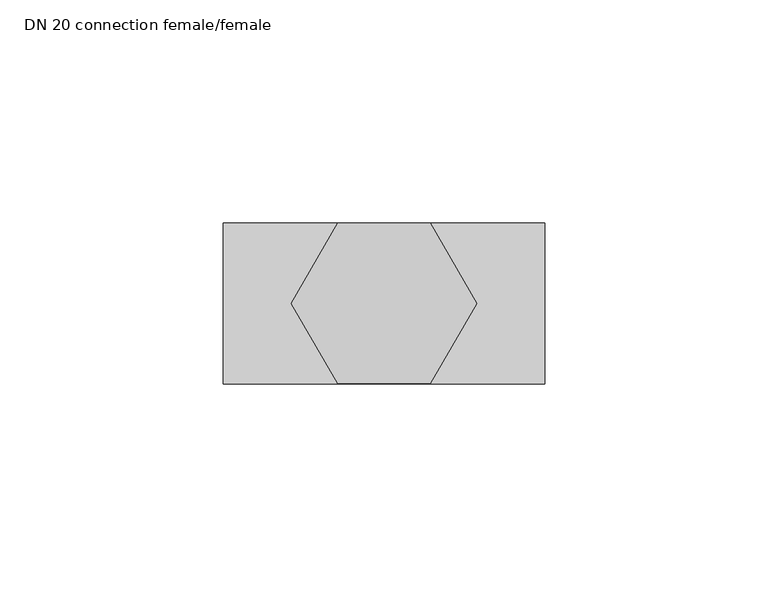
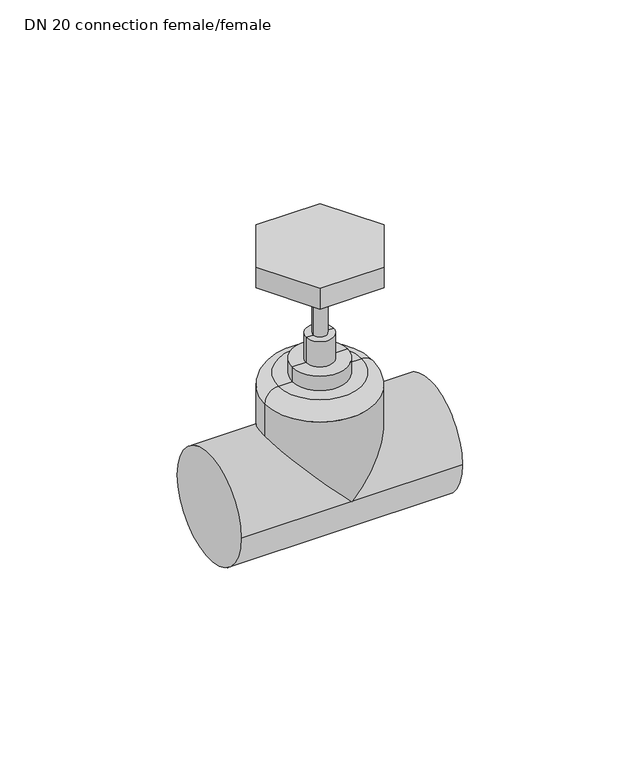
"""IFC4 building model written with IfcOpenShell, lengths in millimetres: valve geometry, PP-R_Valve : DN 20 connection female/female."""

from ifc_helpers import new_model, si_unit, point, frame, origin, place, context, project, spatial, polyline, circle_curve, ellipse_curve, trimmed, outline, extrude, source, transform, mapped, element, save
from ifc_brep_helpers import plane_surface, cylinder_surface, revolved_surface, advanced_brep


def dn_20_connection_female_female_d176d5bb(model_context):
    return source(origin(), model_context, "Body", "SolidModel", [
        extrude(outline(polyline([(70.3002724, 0.0), (59.9079676, -18.0), (39.1233579, -18.0), (28.7310531, 0.0), (39.1233579, 18.0), (59.9079676, 18.0), (70.3002724, 0.0)])), frame((0.0, 0.0, 69.8), z_axis=(0.0, 0.0, 1.0), x_axis=(1.0, 0.0, 0.0)), (0.0, 0.0, 1.0), 7.2),
        advanced_brep(
        [(49.5156627, 0.0, 69.8), (51.7656627, 0.0, 69.8), (47.2656627, 0.0, 69.8), (45.0156627, 0.0, 38.5), (54.0156627, 0.0, 38.5), (49.5156627, 0.0, 38.5), (45.0156627, 0.0, 47.125), (54.0156627, 0.0, 47.125), (47.2656627, 0.0, 47.125), (51.7656627, 0.0, 47.125)],
        [
            (0, 1),
            (1, 2, circle_curve(frame((49.5156627, 0.0, 69.8), z_axis=(0.0, 0.0, 1.0), x_axis=(1.0, 0.0, 0.0)), 2.25)),
            (2, 0),
            (2, 1, circle_curve(frame((49.5156627, 0.0, 69.8), z_axis=(0.0, 0.0, 1.0), x_axis=(1.0, 0.0, 0.0)), 2.25)),
            (3, 4, circle_curve(frame((49.5156627, 0.0, 38.5), z_axis=(0.0, 0.0, -1.0), x_axis=(1.0, 0.0, 0.0)), 4.5)),
            (4, 5),
            (5, 3),
            (4, 3, circle_curve(frame((49.5156627, 0.0, 38.5), z_axis=(0.0, 0.0, -1.0), x_axis=(1.0, 0.0, 0.0)), 4.5)),
            (6, 7, circle_curve(frame((49.5156627, 0.0, 47.125), z_axis=(0.0, 0.0, -1.0), x_axis=(1.0, 0.0, 0.0)), 4.5)),
            (7, 4),
            (3, 6),
            (7, 6, circle_curve(frame((49.5156627, 0.0, 47.125), z_axis=(0.0, 0.0, -1.0), x_axis=(1.0, 0.0, 0.0)), 4.5)),
            (8, 9, circle_curve(frame((49.5156627, 0.0, 47.125), z_axis=(0.0, 0.0, -1.0), x_axis=(1.0, 0.0, 0.0)), 2.25)),
            (9, 7),
            (6, 8),
            (9, 8, circle_curve(frame((49.5156627, 0.0, 47.125), z_axis=(0.0, 0.0, -1.0), x_axis=(1.0, 0.0, 0.0)), 2.25)),
            (1, 9),
            (8, 2),
        ],
        [
            plane_surface(frame((49.5156627, 0.0, 69.8), z_axis=(0.0, 0.0, 1.0), x_axis=(1.0, 0.0, 0.0))),
            plane_surface(frame((49.5156627, 0.0, 38.5), z_axis=(0.0, 0.0, -1.0), x_axis=(1.0, 0.0, 0.0))),
            cylinder_surface(frame((49.5156627, 0.0, 160.5), z_axis=(0.0, 0.0, 1.0), x_axis=(1.0, 0.0, 0.0)), 4.5),
            plane_surface(frame((49.5156627, 0.0, 47.125), z_axis=(0.0, 0.0, 1.0), x_axis=(1.0, 0.0, 0.0))),
            cylinder_surface(frame((49.5156627, 0.0, 160.5), z_axis=(0.0, 0.0, 1.0), x_axis=(1.0, 0.0, 0.0)), 2.25),
        ],
        [
            (0, [[1, 2, 3]]),
            (0, [[-3, 4, -1]]),
            (1, [[5, 6, 7]]),
            (1, [[8, -7, -6]]),
            (2, [[9, 10, -5, 11]]),
            (2, [[12, -11, -8, -10]]),
            (3, [[13, 14, -9, 15]]),
            (3, [[16, -15, -12, -14]]),
            (4, [[-2, 17, -13, 18]]),
            (4, [[-4, -18, -16, -17]]),
        ],
    ),
        advanced_brep(
        [(49.5156627, 0.0, 38.5), (58.5156627, 0.0, 38.5), (40.5156627, 0.0, 38.5), (36.0156627, 0.0, 33.5), (40.5156627, 0.0, 33.5), (58.5156627, 0.0, 33.5), (63.0156627, 0.0, 33.5), (67.5156627, 0.0, 29.0), (31.5156627, 0.0, 29.0), (67.5156627, 0.0, 18.0), (49.5156627, 18.0, 0.0), (31.5156627, 0.0, 18.0), (49.5156627, -18.0, 0.0), (85.5156627, -18.0, 0.0), (85.5156627, 18.0, 0.0), (13.5156627, -18.0, 0.0), (13.5156627, 18.0, 0.0)],
        [
            (0, 1),
            (1, 2, circle_curve(frame((49.5156627, 0.0, 38.5), z_axis=(0.0, 0.0, 1.0), x_axis=(1.0, 0.0, 0.0)), 9.0)),
            (2, 0),
            (2, 1, circle_curve(frame((49.5156627, 0.0, 38.5), z_axis=(0.0, 0.0, 1.0), x_axis=(1.0, 0.0, 0.0)), 9.0)),
            (3, 4),
            (4, 5, circle_curve(frame((49.5156627, 0.0, 33.5), z_axis=(0.0, 0.0, -1.0), x_axis=(1.0, 0.0, 0.0)), 9.0)),
            (5, 6),
            (6, 3, circle_curve(frame((49.5156627, 0.0, 33.5), z_axis=(0.0, 0.0, 1.0), x_axis=(1.0, 0.0, 0.0)), 13.5)),
            (3, 6, circle_curve(frame((49.5156627, 0.0, 33.5), z_axis=(0.0, 0.0, 1.0), x_axis=(1.0, 0.0, 0.0)), 13.5)),
            (5, 4, circle_curve(frame((49.5156627, 0.0, 33.5), z_axis=(0.0, 0.0, -1.0), x_axis=(1.0, 0.0, 0.0)), 9.0)),
            (6, 7, circle_curve(frame((63.0156627, 0.0, 29.0), z_axis=(0.0, 1.0, 0.0), x_axis=(1.0, 0.0, 0.0)), 4.5)),
            (7, 8, circle_curve(frame((49.5156627, 0.0, 29.0), z_axis=(0.0, 0.0, 1.0), x_axis=(1.0, 0.0, 0.0)), 18.0)),
            (8, 3, circle_curve(frame((36.0156627, 0.0, 29.0), z_axis=(0.0, 1.0, 0.0), x_axis=(-1.0, 0.0, 0.0)), 4.5)),
            (8, 7, circle_curve(frame((49.5156627, 0.0, 29.0), z_axis=(0.0, 0.0, 1.0), x_axis=(1.0, 0.0, 0.0)), 18.0)),
            (4, 2),
            (1, 5),
            (7, 9),
            (9, 10, ellipse_curve(frame((49.5156627, 0.0, 0.0), z_axis=(-0.7071067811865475, 0.0, 0.7071067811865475), x_axis=(0.7071067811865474, 0.0, 0.7071067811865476)), 25.4558441, 18.0)),
            (10, 11, ellipse_curve(frame((49.5156627, 0.0, 0.0), z_axis=(0.7071067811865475, 0.0, 0.7071067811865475), x_axis=(-0.7071067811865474, 0.0, 0.7071067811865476)), 25.4558441, 18.0)),
            (11, 8),
            (11, 12, ellipse_curve(frame((49.5156627, 0.0, 0.0), z_axis=(0.7071067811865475, 0.0, 0.7071067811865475), x_axis=(-0.7071067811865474, 0.0, 0.7071067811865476)), 25.4558441, 18.0)),
            (12, 9, ellipse_curve(frame((49.5156627, 0.0, 0.0), z_axis=(-0.7071067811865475, 0.0, 0.7071067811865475), x_axis=(0.7071067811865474, 0.0, 0.7071067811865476)), 25.4558441, 18.0)),
            (13, 14, circle_curve(frame((85.5156627, 0.0, 0.0), z_axis=(1.0, 0.0, 0.0), x_axis=(0.0, 1.0, 0.0)), 18.0)),
            (14, 13, circle_curve(frame((85.5156627, 0.0, 0.0), z_axis=(1.0, 0.0, 0.0), x_axis=(0.0, 1.0, 0.0)), 18.0)),
            (15, 16, circle_curve(frame((13.5156627, 0.0, 0.0), z_axis=(-1.0, 0.0, 0.0), x_axis=(0.0, 1.0, 0.0)), 18.0)),
            (16, 15, circle_curve(frame((13.5156627, 0.0, 0.0), z_axis=(-1.0, 0.0, 0.0), x_axis=(0.0, 1.0, 0.0)), 18.0)),
            (13, 12),
            (12, 15),
            (16, 10),
            (10, 14),
        ],
        [
            plane_surface(frame((49.5156627, 0.0, 38.5), z_axis=(0.0, 0.0, 1.0), x_axis=(1.0, 0.0, 0.0))),
            plane_surface(frame((49.5156627, 0.0, 33.5), z_axis=(0.0, 0.0, 1.0), x_axis=(1.0, 0.0, 0.0))),
            revolved_surface(trimmed(ellipse_curve(frame((63.0156627, 0.0, 29.0), z_axis=(0.0, -1.0, 0.0), x_axis=(1.0, 0.0, 0.0)), 4.5, 4.5), [point((67.5156627, 0.0, 29.0))], [point((63.0156627, 0.0, 33.5))], True, "CARTESIAN"), (49.5156627, 0.0, 117.0), (0.0, 0.0, 1.0)),
            cylinder_surface(frame((49.5156627, 0.0, 117.0), z_axis=(0.0, 0.0, 1.0), x_axis=(1.0, 0.0, 0.0)), 9.0),
            cylinder_surface(frame((49.5156627, 0.0, 102.0), z_axis=(0.0, 0.0, 1.0), x_axis=(1.0, 0.0, 0.0)), 18.0),
            plane_surface(frame((85.5156627, 18.0, 0.0), z_axis=(1.0, 0.0, 0.0), x_axis=(0.0, 0.0, 1.0))),
            plane_surface(frame((13.5156627, 18.0, 0.0), z_axis=(-1.0, 0.0, 0.0), x_axis=(0.0, 0.0, -1.0))),
            cylinder_surface(frame((13.5156627, 0.0, 0.0), z_axis=(1.0, 0.0, 0.0), x_axis=(0.0, 1.0, 0.0)), 18.0),
        ],
        [
            (0, [[1, 2, 3]]),
            (0, [[-1, -3, 4]]),
            (1, [[5, 6, 7, 8]]),
            (1, [[-5, 9, -7, 10]]),
            (2, [[-8, 11, 12, 13]]),
            (2, [[-9, -13, 14, -11]]),
            (3, [[-6, 15, -2, 16]]),
            (3, [[-10, -16, -4, -15]]),
            (4, [[-12, 17, 18, 19, 20]]),
            (4, [[-14, -20, 21, 22, -17]]),
            (5, [[23, 24]]),
            (6, [[25, 26]]),
            (7, [[-23, 27, 28, -26, 29, 30]]),
            (7, [[-24, -30, -18, -22, -27]]),
            (7, [[-25, -28, -21, -19, -29]]),
        ],
    ),
    ])


if __name__ == "__main__":
    model = new_model("IFC4")
    model_context = context("Model", 3, world=origin())
    ifc_project = project(units=[si_unit("LENGTHUNIT", "METRE", prefix="MILLI")], contexts=[model_context])
    site = spatial("IfcSite", under=ifc_project)
    building = spatial("IfcBuilding", under=site)
    placement = place(None, origin())
    dn_20_connection_female_female_shape = dn_20_connection_female_female_d176d5bb(model_context)
    element("IfcValve", 1, ObjectType="PP-R_Valve : DN 20 connection female/female", at=placement, inside=building, context=model_context, shape_type="MappedRepresentation", body=[
        mapped(dn_20_connection_female_female_shape, transform((0.0, 0.0, 0.0), x_axis=(1.0, 0.0, 0.0), y_axis=(0.0, 1.0, 0.0), z_axis=(0.0, 0.0, 1.0))),
    ])
    save(model, "model.ifc")
